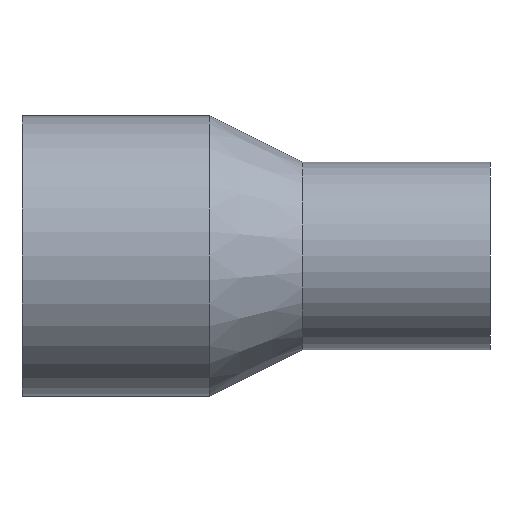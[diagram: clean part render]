
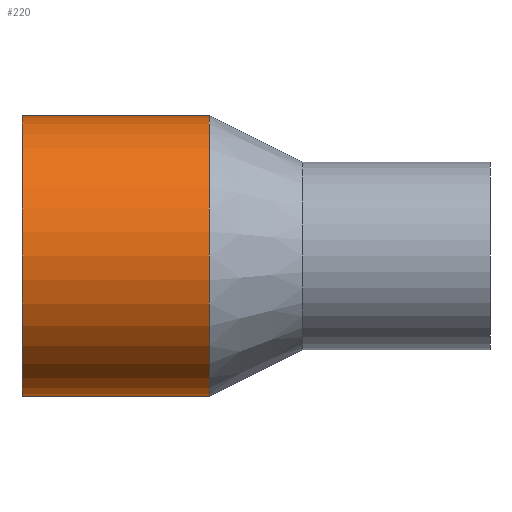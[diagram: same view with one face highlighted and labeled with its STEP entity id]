
A CAD part, front view. The second image highlights one B-rep face of the part: STEP entity #220.
In plain terms, the highlighted cylindrical face has radius 19.05 mm (diameter 38.1 mm), a partial arc.
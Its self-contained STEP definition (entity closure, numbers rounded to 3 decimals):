
#10 = DIRECTION ( 'NONE',  ( -1., 0., 0. ) ) ;
#42 = DIRECTION ( 'NONE',  ( -1., 0., 0. ) ) ;
#63 = DIRECTION ( 'NONE',  ( 0., 0., 1. ) ) ;
#67 = CARTESIAN_POINT ( 'NONE',  ( -63.937, 0., 0. ) ) ;
#84 = DIRECTION ( 'NONE',  ( -1., 0., 0. ) ) ;
#134 = CARTESIAN_POINT ( 'NONE',  ( 25.4, 0., -19.05 ) ) ;
#140 = CARTESIAN_POINT ( 'NONE',  ( -63.937, 0., -19.05 ) ) ;
#150 = ORIENTED_EDGE ( 'NONE', *, *, #239, .F. ) ;
#171 = EDGE_LOOP ( 'NONE', ( #150, #185, #250, #274 ) ) ;
#185 = ORIENTED_EDGE ( 'NONE', *, *, #257, .T. ) ;
#187 = VECTOR ( 'NONE', #42, 1000. ) ;
#188 = VECTOR ( 'NONE', #195, 1000. ) ;
#195 = DIRECTION ( 'NONE',  ( -1., 0., 0. ) ) ;
#196 = VERTEX_POINT ( 'NONE', #321 ) ;
#197 = AXIS2_PLACEMENT_3D ( 'NONE', #67, #352, #63 ) ;
#206 = CARTESIAN_POINT ( 'NONE',  ( 25.4, 0., 0. ) ) ;
#210 = EDGE_CURVE ( 'NONE', #387, #196, #399, .T. ) ;
#219 = VERTEX_POINT ( 'NONE', #134 ) ;
#220 = ADVANCED_FACE ( 'NONE', ( #359 ), #405, .T. ) ;
#239 = EDGE_CURVE ( 'NONE', #219, #375, #266, .T. ) ;
#242 = DIRECTION ( 'NONE',  ( 0., 0., 1. ) ) ;
#244 = AXIS2_PLACEMENT_3D ( 'NONE', #206, #10, #242 ) ;
#250 = ORIENTED_EDGE ( 'NONE', *, *, #210, .T. ) ;
#257 = EDGE_CURVE ( 'NONE', #219, #387, #358, .T. ) ;
#266 = LINE ( 'NONE', #140, #187 ) ;
#274 = ORIENTED_EDGE ( 'NONE', *, *, #402, .F. ) ;
#278 = CARTESIAN_POINT ( 'NONE',  ( 0., 0., 0. ) ) ;
#303 = CARTESIAN_POINT ( 'NONE',  ( 0., 0., -19.05 ) ) ;
#308 = DIRECTION ( 'NONE',  ( 0., 0., 1. ) ) ;
#317 = CARTESIAN_POINT ( 'NONE',  ( -63.937, 0., 19.05 ) ) ;
#321 = CARTESIAN_POINT ( 'NONE',  ( 0., 0., 19.05 ) ) ;
#336 = CARTESIAN_POINT ( 'NONE',  ( 25.4, 0., 19.05 ) ) ;
#352 = DIRECTION ( 'NONE',  ( -1., 0., 0. ) ) ;
#358 = CIRCLE ( 'NONE', #244, 19.05 ) ;
#359 = FACE_OUTER_BOUND ( 'NONE', #171, .T. ) ;
#375 = VERTEX_POINT ( 'NONE', #303 ) ;
#387 = VERTEX_POINT ( 'NONE', #336 ) ;
#391 = AXIS2_PLACEMENT_3D ( 'NONE', #278, #84, #308 ) ;
#399 = LINE ( 'NONE', #317, #188 ) ;
#402 = EDGE_CURVE ( 'NONE', #375, #196, #412, .T. ) ;
#405 = CYLINDRICAL_SURFACE ( 'NONE', #197, 19.05 ) ;
#412 = CIRCLE ( 'NONE', #391, 19.05 ) ;
